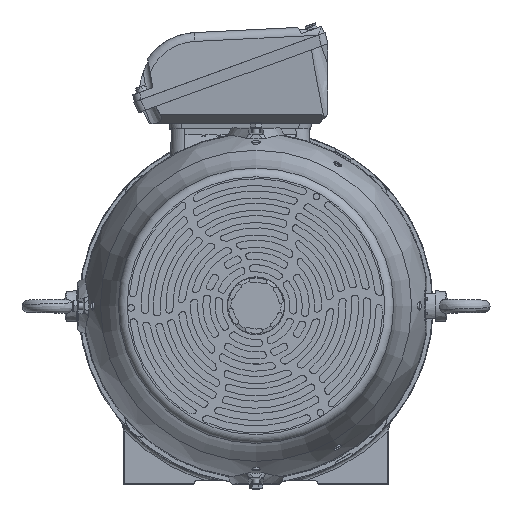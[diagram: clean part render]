
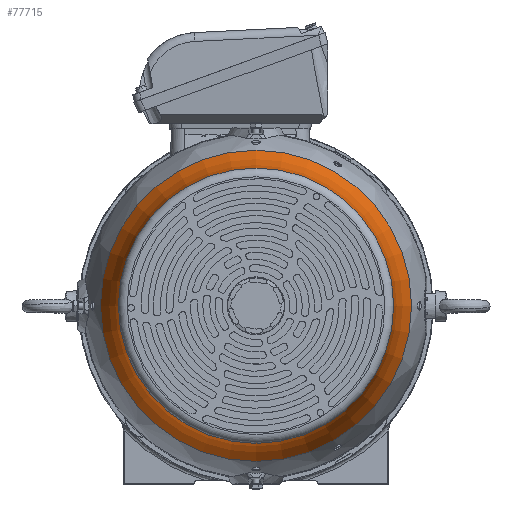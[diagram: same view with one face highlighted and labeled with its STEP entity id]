
A CAD part, top view. The second image highlights one B-rep face of the part: STEP entity #77715.
In plain terms, the highlighted toroidal (fillet/blend) face has major radius 333.581 mm and minor radius 178.663 mm.
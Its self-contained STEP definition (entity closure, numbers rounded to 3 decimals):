
#4701=TOROIDAL_SURFACE('',#84165,333.581,178.663);
#8950=FACE_OUTER_BOUND('',#13488,.T.);
#13488=EDGE_LOOP('',(#58288,#58289,#58290,#58291,#58292,#58293));
#18087=CIRCLE('',#83908,155.304);
#18088=CIRCLE('',#83909,155.304);
#18184=CIRCLE('',#84163,175.502);
#18185=CIRCLE('',#84164,175.502);
#18186=CIRCLE('',#84166,178.663);
#32154=VERTEX_POINT('',#123453);
#32155=VERTEX_POINT('',#123455);
#32382=VERTEX_POINT('',#126700);
#32383=VERTEX_POINT('',#126701);
#41280=EDGE_CURVE('',#32154,#32155,#18087,.T.);
#41281=EDGE_CURVE('',#32155,#32154,#18088,.T.);
#41610=EDGE_CURVE('',#32382,#32383,#18184,.T.);
#41611=EDGE_CURVE('',#32383,#32382,#18185,.T.);
#41619=EDGE_CURVE('',#32154,#32383,#18186,.T.);
#58288=ORIENTED_EDGE('',*,*,#41281,.F.);
#58289=ORIENTED_EDGE('',*,*,#41280,.F.);
#58290=ORIENTED_EDGE('',*,*,#41619,.T.);
#58291=ORIENTED_EDGE('',*,*,#41611,.T.);
#58292=ORIENTED_EDGE('',*,*,#41610,.T.);
#58293=ORIENTED_EDGE('',*,*,#41619,.F.);
#77715=ADVANCED_FACE('',(#8950),#4701,.F.);
#83908=AXIS2_PLACEMENT_3D('',#123456,#97292,#97293);
#83909=AXIS2_PLACEMENT_3D('',#123457,#97294,#97295);
#84163=AXIS2_PLACEMENT_3D('',#126702,#97914,#97915);
#84164=AXIS2_PLACEMENT_3D('',#126703,#97916,#97917);
#84165=AXIS2_PLACEMENT_3D('',#126811,#97918,#97919);
#84166=AXIS2_PLACEMENT_3D('',#126812,#97920,#97921);
#97292=DIRECTION('center_axis',(0.,0.,
1.));
#97293=DIRECTION('ref_axis',(0.,1.,0.));
#97294=DIRECTION('center_axis',(0.,0.,
1.));
#97295=DIRECTION('ref_axis',(0.,1.,0.));
#97914=DIRECTION('center_axis',(0.,0.,
1.));
#97915=DIRECTION('ref_axis',(0.,1.,0.));
#97916=DIRECTION('center_axis',(0.,0.,
1.));
#97917=DIRECTION('ref_axis',(0.,1.,0.));
#97918=DIRECTION('center_axis',(0.,0.,
1.));
#97919=DIRECTION('ref_axis',(0.,1.,0.));
#97920=DIRECTION('center_axis',(-1.,0.,0.));
#97921=DIRECTION('ref_axis',(0.,-1.,0.));
#123453=CARTESIAN_POINT('',(0.,-155.304,766.784));
#123455=CARTESIAN_POINT('',(0.,155.304,766.784));
#123456=CARTESIAN_POINT('Origin',(0.,0.,
766.784));
#123457=CARTESIAN_POINT('Origin',(0.,0.,
766.784));
#126700=CARTESIAN_POINT('',(0.,175.502,695.273));
#126701=CARTESIAN_POINT('',(0.,-175.502,695.273));
#126702=CARTESIAN_POINT('Origin',(0.,0.,
695.273));
#126703=CARTESIAN_POINT('Origin',(0.,0.,
695.273));
#126811=CARTESIAN_POINT('Origin',(0.,0.,
778.528));
#126812=CARTESIAN_POINT('Origin',(0.,-333.581,
778.528));
